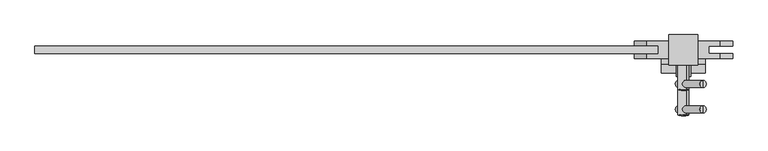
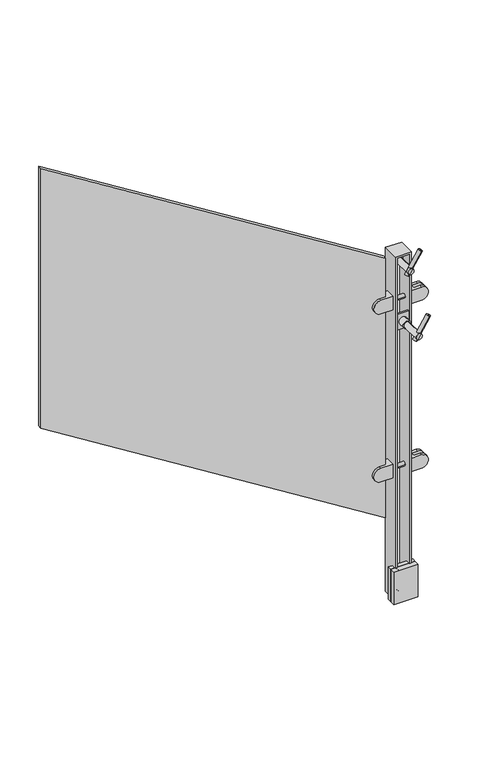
"""IFC4 building model written with IfcOpenShell, lengths in millimetres: proxy geometry, LIVERS_ICN - Glass Panel : LIVERS_ICN - Glass Panel."""

from ifc_helpers import new_model, si_unit, point, frame, origin, place, context, project, spatial, polyline, circle_curve, ellipse_curve, trimmed, outline, extrude, faceted_brep, source, transform, mapped, element, save
from ifc_brep_helpers import plane_surface, cylinder_surface, revolved_surface, advanced_brep


def building_element_proxy_c05a2053(model_context):
    return source(origin(), model_context, "Body", "SolidModel", [
        advanced_brep(
        [(1223.1309171, 60.3249609, 615.1231165), (1216.4009425, 60.3249609, 604.3529057), (1209.6709678, 60.3249609, 593.5826949), (1223.1309171, 38.0999609, 615.1231165), (1209.6709678, 38.0999609, 593.5826949), (1216.4009425, 38.0999609, 604.3529057)],
        [
            (0, 1),
            (1, 2),
            (2, 0, circle_curve(frame((1216.4009425, 60.3249609, 604.3529057), z_axis=(0.0, 1.0, 0.0), x_axis=(-0.5299192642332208, 0.0, -0.8480480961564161)), 12.7)),
            (0, 2, circle_curve(frame((1216.4009425, 60.3249609, 604.3529057), z_axis=(0.0, 1.0, 0.0), x_axis=(-0.5299192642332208, 0.0, -0.8480480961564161)), 12.7)),
            (3, 0),
            (2, 4),
            (4, 3, circle_curve(frame((1216.4009425, 38.0999609, 604.3529057), z_axis=(0.0, 1.0, 0.0), x_axis=(-0.5299192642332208, 0.0, -0.8480480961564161)), 12.7)),
            (3, 4, circle_curve(frame((1216.4009425, 38.0999609, 604.3529057), z_axis=(0.0, 1.0, 0.0), x_axis=(-0.5299192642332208, 0.0, -0.8480480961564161)), 12.7)),
            (5, 3),
            (4, 5),
        ],
        [
            plane_surface(frame((1216.4009425, 60.3249609, 604.3529057), z_axis=(0.0, 1.0, 0.0), x_axis=(-0.5299192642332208, 0.0, -0.8480480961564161))),
            cylinder_surface(frame((1216.4009425, 69.3828283, 604.3529057), z_axis=(0.0, -1.0, 0.0), x_axis=(-0.5299192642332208, 0.0, -0.8480480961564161)), 12.7),
            plane_surface(frame((1216.4009425, 38.0999609, 604.3529057), z_axis=(0.0, -1.0, 0.0), x_axis=(-0.5299192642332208, 0.0, -0.8480480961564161))),
        ],
        [
            (0, [[1, 2, 3]]),
            (0, [[-2, -1, 4]]),
            (1, [[5, -3, 6, 7]]),
            (1, [[-6, -4, -5, 8]]),
            (2, [[9, -7, 10]]),
            (2, [[-10, -8, -9]]),
        ],
    ),
        advanced_brep(
        [(1250.6686127, -25.4004131, 659.1926416), (1250.6686127, -19.0504161, 659.1926416), (1250.6686127, -12.7004191, 659.1926416), (1208.0651874, -25.4004131, 591.0129091), (1208.0651874, -12.7004191, 591.0129091), (1208.0651874, -19.0504161, 591.0129091)],
        [
            (0, 1),
            (1, 2),
            (2, 0, circle_curve(frame((1250.6686127, -19.0504161, 659.1926416), z_axis=(0.5299192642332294, 0.0, 0.8480480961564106), x_axis=(0.0, 1.0, 0.0)), 6.349997)),
            (0, 2, circle_curve(frame((1250.6686127, -19.0504161, 659.1926416), z_axis=(0.5299192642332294, 0.0, 0.8480480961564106), x_axis=(0.0, 1.0, 0.0)), 6.349997)),
            (3, 0),
            (2, 4),
            (4, 3, circle_curve(frame((1208.0651874, -19.0504161, 591.0129091), z_axis=(0.5299192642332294, 0.0, 0.8480480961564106), x_axis=(0.0, 1.0, 0.0)), 6.349997)),
            (3, 4, circle_curve(frame((1208.0651874, -19.0504161, 591.0129091), z_axis=(0.5299192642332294, 0.0, 0.8480480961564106), x_axis=(0.0, 1.0, 0.0)), 6.349997)),
            (5, 3),
            (4, 5),
        ],
        [
            plane_surface(frame((1250.6686127, -19.0504161, 659.1926416), z_axis=(0.5299192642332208, 0.0, 0.8480480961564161), x_axis=(0.0, 1.0, 0.0))),
            cylinder_surface(frame((1258.0085281, -19.0504161, 670.9389617), z_axis=(-0.5299192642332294, 0.0, -0.8480480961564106), x_axis=(0.0, 1.0, 0.0)), 6.349997),
            plane_surface(frame((1208.0651874, -19.0504161, 591.0129091), z_axis=(-0.5299192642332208, 0.0, -0.8480480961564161), x_axis=(0.0, 1.0, 0.0))),
        ],
        [
            (0, [[1, 2, 3]]),
            (0, [[-2, -1, 4]]),
            (1, [[5, -3, 6, 7]]),
            (1, [[-6, -4, -5, 8]]),
            (2, [[9, -7, 10]]),
            (2, [[-10, -8, -9]]),
        ],
    ),
        advanced_brep(
        [(1216.4009425, -30.1375464, 604.3529057), (1221.4484235, -28.5500464, 612.4305638), (1211.3534615, -28.5500464, 596.2752476), (1221.4484235, 38.0999609, 612.4305638), (1216.4009425, 38.0999609, 604.3529057), (1211.3534615, 38.0999609, 596.2752476)],
        [
            (0, 1, circle_curve(frame((1216.4009425, -0.7687964, 604.3529057), z_axis=(-0.8480480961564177, 0.0, 0.529919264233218), x_axis=(0.0, 1.0, 0.0)), 29.36875)),
            (1, 2, circle_curve(frame((1216.4009425, -28.5500464, 604.3529057), z_axis=(0.0, -1.0, 0.0), x_axis=(-0.5299192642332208, 0.0, -0.8480480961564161)), 9.525)),
            (2, 0, circle_curve(frame((1216.4009425, -0.7687964, 604.3529057), z_axis=(-0.8480480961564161, 0.0, 0.5299192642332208), x_axis=(0.0, 1.0, 0.0)), 29.36875)),
            (2, 1, circle_curve(frame((1216.4009425, -28.5500464, 604.3529057), z_axis=(0.0, -1.0, 0.0), x_axis=(-0.5299192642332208, 0.0, -0.8480480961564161)), 9.525)),
            (3, 4),
            (4, 5),
            (5, 3, circle_curve(frame((1216.4009425, 38.0999609, 604.3529057), z_axis=(0.0, 1.0, 0.0), x_axis=(-0.5299192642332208, 0.0, -0.8480480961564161)), 9.525)),
            (3, 5, circle_curve(frame((1216.4009425, 38.0999609, 604.3529057), z_axis=(0.0, 1.0, 0.0), x_axis=(-0.5299192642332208, 0.0, -0.8480480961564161)), 9.525)),
            (1, 3),
            (5, 2),
        ],
        [
            revolved_surface(trimmed(ellipse_curve(frame((1216.4009425, -0.7687964, 604.3529057), z_axis=(-0.8480480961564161, 0.0, 0.5299192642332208), x_axis=(0.0, 1.0, 0.0)), 29.36875, 29.36875), [point((1211.3534615, -28.5500464, 596.2752476))], [point((1216.4009425, -30.1375464, 604.3529057))], True, "CARTESIAN"), (1216.4009425, 30.3031204, 604.3529057), (0.0, -1.0, 0.0)),
            plane_surface(frame((1216.4009425, 38.0999609, 604.3529057), z_axis=(0.0, 1.0, 0.0), x_axis=(-0.5299192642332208, 0.0, -0.8480480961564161))),
            cylinder_surface(frame((1216.4009425, 30.3031204, 604.3529057), z_axis=(0.0, -1.0, 0.0), x_axis=(-0.5299192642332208, 0.0, -0.8480480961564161)), 9.525),
        ],
        [
            (0, [[1, 2, 3]]),
            (0, [[-3, 4, -1]]),
            (1, [[5, 6, 7]]),
            (1, [[-6, -5, 8]]),
            (2, [[9, -7, 10, -2]]),
            (2, [[-10, -8, -9, -4]]),
        ],
    ),
        extrude(outline(polyline([(1235.4509425, 66.6749609), (1235.4509425, 60.3249609), (1197.3509425, 60.3249609), (1197.3509425, 66.6749609), (1235.4509425, 66.6749609)])), frame((0.0, 0.0, 578.9529057), z_axis=(0.0, 0.0, 1.0), x_axis=(1.0, 0.0, 0.0)), (0.0, 0.0, 1.0), 50.8),
        advanced_brep(
        [(1223.1309171, 15.875, 425.5915353), (1216.4009425, 15.875, 414.8213245), (1209.6709678, 15.875, 404.0511137), (1223.1309171, -6.35, 425.5915353), (1209.6709678, -6.35, 404.0511137), (1216.4009425, -6.35, 414.8213245)],
        [
            (0, 1),
            (1, 2),
            (2, 0, circle_curve(frame((1216.4009425, 15.875, 414.8213245), z_axis=(0.0, 1.0, 0.0), x_axis=(-0.5299192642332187, 0.0, -0.8480480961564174)), 12.7)),
            (0, 2, circle_curve(frame((1216.4009425, 15.875, 414.8213245), z_axis=(0.0, 1.0, 0.0), x_axis=(-0.5299192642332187, 0.0, -0.8480480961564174)), 12.7)),
            (3, 0),
            (2, 4),
            (4, 3, circle_curve(frame((1216.4009425, -6.35, 414.8213245), z_axis=(0.0, 1.0, 0.0), x_axis=(-0.5299192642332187, 0.0, -0.8480480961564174)), 12.7)),
            (3, 4, circle_curve(frame((1216.4009425, -6.35, 414.8213245), z_axis=(0.0, 1.0, 0.0), x_axis=(-0.5299192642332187, 0.0, -0.8480480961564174)), 12.7)),
            (5, 3),
            (4, 5),
        ],
        [
            plane_surface(frame((1216.4009425, 15.875, 414.8213245), z_axis=(0.0, 1.0, 0.0), x_axis=(-0.5299192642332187, 0.0, -0.8480480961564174))),
            cylinder_surface(frame((1216.4009425, 24.9328674, 414.8213245), z_axis=(0.0, -1.0, 0.0), x_axis=(-0.5299192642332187, 0.0, -0.8480480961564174)), 12.7),
            plane_surface(frame((1216.4009425, -6.35, 414.8213245), z_axis=(0.0, -1.0, 0.0), x_axis=(-0.5299192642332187, 0.0, -0.8480480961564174))),
        ],
        [
            (0, [[1, 2, 3]]),
            (0, [[-2, -1, 4]]),
            (1, [[5, -3, 6, 7]]),
            (1, [[-6, -4, -5, 8]]),
            (2, [[9, -7, 10]]),
            (2, [[-10, -8, -9]]),
        ],
    ),
        advanced_brep(
        [(1250.6686127, -69.850374, 469.6610605), (1250.6686127, -63.500377, 469.6610605), (1250.6686127, -57.15038, 469.6610605), (1208.0651874, -69.850374, 401.4813279), (1208.0651874, -57.15038, 401.4813279), (1208.0651874, -63.500377, 401.4813279)],
        [
            (0, 1),
            (1, 2),
            (2, 0, circle_curve(frame((1250.6686127, -63.500377, 469.6610605), z_axis=(0.5299192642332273, 0.0, 0.848048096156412), x_axis=(0.0, 1.0, 0.0)), 6.349997)),
            (0, 2, circle_curve(frame((1250.6686127, -63.500377, 469.6610605), z_axis=(0.5299192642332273, 0.0, 0.848048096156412), x_axis=(0.0, 1.0, 0.0)), 6.349997)),
            (3, 0),
            (2, 4),
            (4, 3, circle_curve(frame((1208.0651874, -63.500377, 401.4813279), z_axis=(0.5299192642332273, 0.0, 0.848048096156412), x_axis=(0.0, 1.0, 0.0)), 6.349997)),
            (3, 4, circle_curve(frame((1208.0651874, -63.500377, 401.4813279), z_axis=(0.5299192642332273, 0.0, 0.848048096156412), x_axis=(0.0, 1.0, 0.0)), 6.349997)),
            (5, 3),
            (4, 5),
        ],
        [
            plane_surface(frame((1250.6686127, -63.500377, 469.6610605), z_axis=(0.5299192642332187, 0.0, 0.8480480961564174), x_axis=(0.0, 1.0, 0.0))),
            cylinder_surface(frame((1258.0085281, -63.500377, 481.4073805), z_axis=(-0.5299192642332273, 0.0, -0.848048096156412), x_axis=(0.0, 1.0, 0.0)), 6.349997),
            plane_surface(frame((1208.0651874, -63.500377, 401.4813279), z_axis=(-0.5299192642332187, 0.0, -0.8480480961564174), x_axis=(0.0, 1.0, 0.0))),
        ],
        [
            (0, [[1, 2, 3]]),
            (0, [[-2, -1, 4]]),
            (1, [[5, -3, 6, 7]]),
            (1, [[-6, -4, -5, 8]]),
            (2, [[9, -7, 10]]),
            (2, [[-10, -8, -9]]),
        ],
    ),
        advanced_brep(
        [(1216.4009425, -74.5875073, 414.8213245), (1221.4484235, -73.0000073, 422.8989826), (1211.3534615, -73.0000073, 406.7436664), (1221.4484235, -6.35, 422.8989826), (1216.4009425, -6.35, 414.8213245), (1211.3534615, -6.35, 406.7436664)],
        [
            (0, 1, circle_curve(frame((1216.4009425, -45.2187573, 414.8213245), z_axis=(-0.8480480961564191, 0.0, 0.5299192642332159), x_axis=(0.0, 1.0, 0.0)), 29.36875)),
            (1, 2, circle_curve(frame((1216.4009425, -73.0000073, 414.8213245), z_axis=(0.0, -1.0, 0.0), x_axis=(-0.5299192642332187, 0.0, -0.8480480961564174)), 9.525)),
            (2, 0, circle_curve(frame((1216.4009425, -45.2187573, 414.8213245), z_axis=(-0.8480480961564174, 0.0, 0.5299192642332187), x_axis=(0.0, 1.0, 0.0)), 29.36875)),
            (2, 1, circle_curve(frame((1216.4009425, -73.0000073, 414.8213245), z_axis=(0.0, -1.0, 0.0), x_axis=(-0.5299192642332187, 0.0, -0.8480480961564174)), 9.525)),
            (3, 4),
            (4, 5),
            (5, 3, circle_curve(frame((1216.4009425, -6.35, 414.8213245), z_axis=(0.0, 1.0, 0.0), x_axis=(-0.5299192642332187, 0.0, -0.8480480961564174)), 9.525)),
            (3, 5, circle_curve(frame((1216.4009425, -6.35, 414.8213245), z_axis=(0.0, 1.0, 0.0), x_axis=(-0.5299192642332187, 0.0, -0.8480480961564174)), 9.525)),
            (1, 3),
            (5, 2),
        ],
        [
            revolved_surface(trimmed(ellipse_curve(frame((1216.4009425, -45.2187573, 414.8213245), z_axis=(-0.8480480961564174, 0.0, 0.5299192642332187), x_axis=(0.0, 1.0, 0.0)), 29.36875, 29.36875), [point((1211.3534615, -73.0000073, 406.7436664))], [point((1216.4009425, -74.5875073, 414.8213245))], True, "CARTESIAN"), (1216.4009425, -14.1468405, 414.8213245), (0.0, -1.0, 0.0)),
            plane_surface(frame((1216.4009425, -6.35, 414.8213245), z_axis=(0.0, 1.0, 0.0), x_axis=(-0.5299192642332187, 0.0, -0.8480480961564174))),
            cylinder_surface(frame((1216.4009425, -14.1468405, 414.8213245), z_axis=(0.0, -1.0, 0.0), x_axis=(-0.5299192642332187, 0.0, -0.8480480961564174)), 9.525),
        ],
        [
            (0, [[1, 2, 3]]),
            (0, [[-3, 4, -1]]),
            (1, [[5, 6, 7]]),
            (1, [[-6, -5, 8]]),
            (2, [[9, -7, 10, -2]]),
            (2, [[-10, -8, -9, -4]]),
        ],
    ),
        extrude(outline(polyline([(1235.4509425, 22.225), (1235.4509425, 15.875), (1197.3509425, 15.875), (1197.3509425, 22.225), (1235.4509425, 22.225)])), frame((0.0, 0.0, 389.4213245), z_axis=(0.0, 0.0, 1.0), x_axis=(1.0, 0.0, 0.0)), (0.0, 0.0, 1.0), 50.8),
        advanced_brep(
        [(1191.0009425, 55.5624457, -60.6282297), (1191.0009425, 25.3999457, -60.6282297), (1191.0009425, 25.3999457, -105.0782297), (1191.0009425, 55.5624457, -105.0782297), (1152.7998485, 55.5624457, -105.0782297), (1152.7998485, 55.5624457, -60.6282297), (1152.7998485, 25.3999457, -105.0782297), (1152.7998485, 34.1311957, -105.0782297), (1172.1290232, 34.1311957, -105.0782297), (1172.1290232, 46.8311957, -105.0782297), (1152.7998485, 46.8311957, -105.0782297), (1152.7998485, 25.3999457, -60.6282297), (1152.7998485, 46.8311957, -60.6282297), (1172.1290232, 46.8311957, -60.6282297), (1172.1290232, 34.1311957, -60.6282297), (1152.7998485, 34.1311957, -60.6282297)],
        [
            (0, 1),
            (1, 2),
            (2, 3),
            (3, 0),
            (3, 4),
            (4, 5, circle_curve(frame((1152.7998485, 55.5624457, -82.8532297), z_axis=(0.0, 1.0, 0.0), x_axis=(0.0, 0.0, -1.0)), 22.225)),
            (5, 0),
            (2, 6),
            (6, 7),
            (7, 8),
            (8, 9),
            (9, 10),
            (10, 4),
            (1, 11),
            (11, 6, circle_curve(frame((1152.7998485, 25.3999457, -82.8532297), z_axis=(0.0, -1.0, 0.0), x_axis=(0.0, 0.0, -1.0)), 22.225)),
            (5, 12),
            (12, 13),
            (13, 14),
            (14, 15),
            (15, 11),
            (13, 9),
            (8, 14),
            (12, 10, circle_curve(frame((1152.7998485, 46.8311957, -82.8532297), z_axis=(0.0, -1.0, 0.0), x_axis=(0.0, 0.0, -1.0)), 22.225)),
            (7, 15, circle_curve(frame((1152.7998485, 34.1311957, -82.8532297), z_axis=(0.0, 1.0, 0.0), x_axis=(0.0, 0.0, -1.0)), 22.225)),
        ],
        [
            plane_surface(frame((1191.0009425, 55.5624457, -105.0782297), z_axis=(1.0, 0.0, 0.0), x_axis=(0.0, 0.0, 1.0))),
            plane_surface(frame((1130.4978617, 55.5624457, -60.6282297), z_axis=(0.0, 1.0, 0.0), x_axis=(1.0, 0.0, 0.0))),
            plane_surface(frame((1130.4978617, 55.5624457, -105.0782297), z_axis=(0.0, 0.0, -1.0), x_axis=(1.0, 0.0, 0.0))),
            plane_surface(frame((1130.4978617, 25.3999457, -105.0782297), z_axis=(0.0, -1.0, 0.0), x_axis=(1.0, 0.0, 0.0))),
            plane_surface(frame((1130.4978617, 25.3999457, -60.6282297), z_axis=(0.0, 0.0, 1.0), x_axis=(1.0, 0.0, 0.0))),
            plane_surface(frame((1172.1290232, 46.8311957, -105.0782297), z_axis=(-1.0, 0.0, 0.0), x_axis=(0.0, 0.0, 1.0))),
            plane_surface(frame((1130.4978617, 46.8311957, -60.6282297), z_axis=(0.0, -1.0, 0.0), x_axis=(1.0, 0.0, 0.0))),
            plane_surface(frame((1130.4978617, 34.1311957, -105.0782297), z_axis=(0.0, 1.0, 0.0), x_axis=(1.0, 0.0, 0.0))),
            cylinder_surface(frame((1152.7998485, 55.5624457, -82.8532297), z_axis=(0.0, 1.0, 0.0), x_axis=(0.0, 0.0, -1.0)), 22.225),
        ],
        [
            (0, [[1, 2, 3, 4]]),
            (1, [[-4, 5, 6, 7]]),
            (2, [[-3, 8, 9, 10, 11, 12, 13, -5]]),
            (3, [[-2, 14, 15, -8]]),
            (4, [[-1, -7, 16, 17, 18, 19, 20, -14]]),
            (5, [[21, -11, 22, -18]]),
            (6, [[-21, -17, 23, -12]]),
            (7, [[-22, -10, 24, -19]]),
            (8, [[-6, -13, -23, -16]]),
            (8, [[-9, -15, -20, -24]]),
        ],
    ),
        advanced_brep(
        [(1241.8009425, 55.5624457, -60.6282297), (1241.8009425, 55.5624457, -105.0782297), (1241.8009425, 25.3999457, -105.0782297), (1241.8009425, 25.3999457, -60.6282297), (1280.0020365, 55.5624457, -60.6282297), (1280.0020365, 55.5624457, -105.0782297), (1280.0020365, 46.8311957, -105.0782297), (1260.6728617, 46.8311957, -105.0782297), (1260.6728617, 34.1311957, -105.0782297), (1280.0020365, 34.1311957, -105.0782297), (1280.0020365, 25.3999457, -105.0782297), (1280.0020365, 25.3999457, -60.6282297), (1280.0020365, 34.1311957, -60.6282297), (1260.6728617, 34.1311957, -60.6282297), (1260.6728617, 46.8311957, -60.6282297), (1280.0020365, 46.8311957, -60.6282297)],
        [
            (0, 1),
            (1, 2),
            (2, 3),
            (3, 0),
            (0, 4),
            (4, 5, circle_curve(frame((1280.0020365, 55.5624457, -82.8532297), z_axis=(0.0, 1.0, 0.0), x_axis=(0.0, 0.0, -1.0)), 22.225)),
            (5, 1),
            (5, 6),
            (6, 7),
            (7, 8),
            (8, 9),
            (9, 10),
            (10, 2),
            (10, 11, circle_curve(frame((1280.0020365, 25.3999457, -82.8532297), z_axis=(0.0, -1.0, 0.0), x_axis=(0.0, 0.0, -1.0)), 22.225)),
            (11, 3),
            (11, 12),
            (12, 13),
            (13, 14),
            (14, 15),
            (15, 4),
            (13, 8),
            (7, 14),
            (6, 15, circle_curve(frame((1280.0020365, 46.8311957, -82.8532297), z_axis=(0.0, -1.0, 0.0), x_axis=(0.0, 0.0, -1.0)), 22.225)),
            (12, 9, circle_curve(frame((1280.0020365, 34.1311957, -82.8532297), z_axis=(0.0, 1.0, 0.0), x_axis=(0.0, 0.0, -1.0)), 22.225)),
        ],
        [
            plane_surface(frame((1241.8009425, 55.5624457, -105.0782297), z_axis=(-1.0, 0.0, 0.0), x_axis=(0.0, 0.0, 1.0))),
            plane_surface(frame((1302.3040232, 55.5624457, -60.6282297), z_axis=(0.0, 1.0, 0.0), x_axis=(-1.0, 0.0, 0.0))),
            plane_surface(frame((1302.3040232, 55.5624457, -105.0782297), z_axis=(0.0, 0.0, -1.0), x_axis=(-1.0, 0.0, 0.0))),
            plane_surface(frame((1302.3040232, 25.3999457, -105.0782297), z_axis=(0.0, -1.0, 0.0), x_axis=(-1.0, 0.0, 0.0))),
            plane_surface(frame((1302.3040232, 25.3999457, -60.6282297), z_axis=(0.0, 0.0, 1.0), x_axis=(-1.0, 0.0, 0.0))),
            plane_surface(frame((1260.6728617, 46.8311957, -105.0782297), z_axis=(1.0, 0.0, 0.0), x_axis=(0.0, 0.0, 1.0))),
            plane_surface(frame((1302.3040232, 46.8311957, -60.6282297), z_axis=(0.0, -1.0, 0.0), x_axis=(-1.0, 0.0, 0.0))),
            plane_surface(frame((1302.3040232, 34.1311957, -105.0782297), z_axis=(0.0, 1.0, 0.0), x_axis=(-1.0, 0.0, 0.0))),
            cylinder_surface(frame((1280.0020365, 55.5624457, -82.8532297), z_axis=(0.0, 1.0, 0.0), x_axis=(0.0, 0.0, -1.0)), 22.225),
        ],
        [
            (0, [[1, 2, 3, 4]]),
            (1, [[5, 6, 7, -1]]),
            (2, [[-7, 8, 9, 10, 11, 12, 13, -2]]),
            (3, [[-13, 14, 15, -3]]),
            (4, [[-15, 16, 17, 18, 19, 20, -5, -4]]),
            (5, [[-18, 21, -10, 22]]),
            (6, [[-9, 23, -19, -22]]),
            (7, [[-17, 24, -11, -21]]),
            (8, [[-20, -23, -8, -6]]),
            (8, [[-24, -16, -14, -12]]),
        ],
    ),
        advanced_brep(
        [(1191.0009425, 55.5624457, 498.1717703), (1191.0009425, 25.3999457, 498.1717703), (1191.0009425, 25.3999457, 453.7217703), (1191.0009425, 55.5624457, 453.7217703), (1152.7998485, 55.5624457, 453.7217703), (1152.7998485, 55.5624457, 498.1717703), (1152.7998485, 25.3999457, 453.7217703), (1152.7998485, 34.1311957, 453.7217703), (1172.1290232, 34.1311957, 453.7217703), (1172.1290232, 46.8311957, 453.7217703), (1152.7998485, 46.8311957, 453.7217703), (1152.7998485, 25.3999457, 498.1717703), (1152.7998485, 46.8311957, 498.1717703), (1172.1290232, 46.8311957, 498.1717703), (1172.1290232, 34.1311957, 498.1717703), (1152.7998485, 34.1311957, 498.1717703)],
        [
            (0, 1),
            (1, 2),
            (2, 3),
            (3, 0),
            (3, 4),
            (4, 5, circle_curve(frame((1152.7998485, 55.5624457, 475.9467703), z_axis=(0.0, 1.0, 0.0), x_axis=(0.0, 0.0, -1.0)), 22.225)),
            (5, 0),
            (2, 6),
            (6, 7),
            (7, 8),
            (8, 9),
            (9, 10),
            (10, 4),
            (1, 11),
            (11, 6, circle_curve(frame((1152.7998485, 25.3999457, 475.9467703), z_axis=(0.0, -1.0, 0.0), x_axis=(0.0, 0.0, -1.0)), 22.225)),
            (5, 12),
            (12, 13),
            (13, 14),
            (14, 15),
            (15, 11),
            (13, 9),
            (8, 14),
            (12, 10, circle_curve(frame((1152.7998485, 46.8311957, 475.9467703), z_axis=(0.0, -1.0, 0.0), x_axis=(0.0, 0.0, -1.0)), 22.225)),
            (7, 15, circle_curve(frame((1152.7998485, 34.1311957, 475.9467703), z_axis=(0.0, 1.0, 0.0), x_axis=(0.0, 0.0, -1.0)), 22.225)),
        ],
        [
            plane_surface(frame((1191.0009425, 55.5624457, 453.7217703), z_axis=(1.0, 0.0, 0.0), x_axis=(0.0, 0.0, 1.0))),
            plane_surface(frame((1130.4978617, 55.5624457, 498.1717703), z_axis=(0.0, 1.0, 0.0), x_axis=(1.0, 0.0, 0.0))),
            plane_surface(frame((1130.4978617, 55.5624457, 453.7217703), z_axis=(0.0, 0.0, -1.0), x_axis=(1.0, 0.0, 0.0))),
            plane_surface(frame((1130.4978617, 25.3999457, 453.7217703), z_axis=(0.0, -1.0, 0.0), x_axis=(1.0, 0.0, 0.0))),
            plane_surface(frame((1130.4978617, 25.3999457, 498.1717703), z_axis=(0.0, 0.0, 1.0), x_axis=(1.0, 0.0, 0.0))),
            plane_surface(frame((1172.1290232, 46.8311957, 453.7217703), z_axis=(-1.0, 0.0, 0.0), x_axis=(0.0, 0.0, 1.0))),
            plane_surface(frame((1130.4978617, 46.8311957, 498.1717703), z_axis=(0.0, -1.0, 0.0), x_axis=(1.0, 0.0, 0.0))),
            plane_surface(frame((1130.4978617, 34.1311957, 453.7217703), z_axis=(0.0, 1.0, 0.0), x_axis=(1.0, 0.0, 0.0))),
            cylinder_surface(frame((1152.7998485, 55.5624457, 475.9467703), z_axis=(0.0, 1.0, 0.0), x_axis=(0.0, 0.0, -1.0)), 22.225),
        ],
        [
            (0, [[1, 2, 3, 4]]),
            (1, [[-4, 5, 6, 7]]),
            (2, [[-3, 8, 9, 10, 11, 12, 13, -5]]),
            (3, [[-2, 14, 15, -8]]),
            (4, [[-1, -7, 16, 17, 18, 19, 20, -14]]),
            (5, [[21, -11, 22, -18]]),
            (6, [[-21, -17, 23, -12]]),
            (7, [[-22, -10, 24, -19]]),
            (8, [[-6, -13, -23, -16]]),
            (8, [[-9, -15, -20, -24]]),
        ],
    ),
        advanced_brep(
        [(1241.8009425, 55.5624457, 498.1717703), (1241.8009425, 55.5624457, 453.7217703), (1241.8009425, 25.3999457, 453.7217703), (1241.8009425, 25.3999457, 498.1717703), (1280.0020365, 55.5624457, 498.1717703), (1280.0020365, 55.5624457, 453.7217703), (1280.0020365, 46.8311957, 453.7217703), (1260.6728617, 46.8311957, 453.7217703), (1260.6728617, 34.1311957, 453.7217703), (1280.0020365, 34.1311957, 453.7217703), (1280.0020365, 25.3999457, 453.7217703), (1280.0020365, 25.3999457, 498.1717703), (1280.0020365, 34.1311957, 498.1717703), (1260.6728617, 34.1311957, 498.1717703), (1260.6728617, 46.8311957, 498.1717703), (1280.0020365, 46.8311957, 498.1717703)],
        [
            (0, 1),
            (1, 2),
            (2, 3),
            (3, 0),
            (0, 4),
            (4, 5, circle_curve(frame((1280.0020365, 55.5624457, 475.9467703), z_axis=(0.0, 1.0, 0.0), x_axis=(0.0, 0.0, -1.0)), 22.225)),
            (5, 1),
            (5, 6),
            (6, 7),
            (7, 8),
            (8, 9),
            (9, 10),
            (10, 2),
            (10, 11, circle_curve(frame((1280.0020365, 25.3999457, 475.9467703), z_axis=(0.0, -1.0, 0.0), x_axis=(0.0, 0.0, -1.0)), 22.225)),
            (11, 3),
            (11, 12),
            (12, 13),
            (13, 14),
            (14, 15),
            (15, 4),
            (13, 8),
            (7, 14),
            (6, 15, circle_curve(frame((1280.0020365, 46.8311957, 475.9467703), z_axis=(0.0, -1.0, 0.0), x_axis=(0.0, 0.0, -1.0)), 22.225)),
            (12, 9, circle_curve(frame((1280.0020365, 34.1311957, 475.9467703), z_axis=(0.0, 1.0, 0.0), x_axis=(0.0, 0.0, -1.0)), 22.225)),
        ],
        [
            plane_surface(frame((1241.8009425, 55.5624457, 453.7217703), z_axis=(-1.0, 0.0, 0.0), x_axis=(0.0, 0.0, 1.0))),
            plane_surface(frame((1302.3040232, 55.5624457, 498.1717703), z_axis=(0.0, 1.0, 0.0), x_axis=(-1.0, 0.0, 0.0))),
            plane_surface(frame((1302.3040232, 55.5624457, 453.7217703), z_axis=(0.0, 0.0, -1.0), x_axis=(-1.0, 0.0, 0.0))),
            plane_surface(frame((1302.3040232, 25.3999457, 453.7217703), z_axis=(0.0, -1.0, 0.0), x_axis=(-1.0, 0.0, 0.0))),
            plane_surface(frame((1302.3040232, 25.3999457, 498.1717703), z_axis=(0.0, 0.0, 1.0), x_axis=(-1.0, 0.0, 0.0))),
            plane_surface(frame((1260.6728617, 46.8311957, 453.7217703), z_axis=(1.0, 0.0, 0.0), x_axis=(0.0, 0.0, 1.0))),
            plane_surface(frame((1302.3040232, 46.8311957, 498.1717703), z_axis=(0.0, -1.0, 0.0), x_axis=(-1.0, 0.0, 0.0))),
            plane_surface(frame((1302.3040232, 34.1311957, 453.7217703), z_axis=(0.0, 1.0, 0.0), x_axis=(-1.0, 0.0, 0.0))),
            cylinder_surface(frame((1280.0020365, 55.5624457, 475.9467703), z_axis=(0.0, 1.0, 0.0), x_axis=(0.0, 0.0, -1.0)), 22.225),
        ],
        [
            (0, [[1, 2, 3, 4]]),
            (1, [[5, 6, 7, -1]]),
            (2, [[-7, 8, 9, 10, 11, 12, 13, -2]]),
            (3, [[-13, 14, 15, -3]]),
            (4, [[-15, 16, 17, 18, 19, 20, -5, -4]]),
            (5, [[-18, 21, -10, 22]]),
            (6, [[-9, 23, -19, -22]]),
            (7, [[-17, 24, -11, -21]]),
            (8, [[-20, -23, -8, -6]]),
            (8, [[-24, -16, -14, -12]]),
        ],
    ),
        advanced_brep(
        [(1216.4009425, 28.575, -499.5192631), (1216.4009425, 29.7562407, -499.5192631), (1216.4009425, 29.7562407, -477.294252), (1216.4009425, 28.575, -477.294252), (1216.4009425, 28.575, -488.4067576), (1216.4009425, 32.325, -494.0192631), (1216.4009425, 30.8816229, -488.4067576), (1216.4009425, 32.325, -482.794252), (1216.4009425, 34.8740117, -494.0192631), (1216.4009425, 34.8740117, -482.794252), (1216.4009425, 33.8500285, -496.9672695), (1216.4009425, 33.8500285, -479.8462456), (1216.4009425, 31.8562692, -498.7255454), (1216.4009425, 31.8562692, -478.0879697)],
        [
            (0, 1),
            (1, 2, circle_curve(frame((1216.4009425, 29.7562407, -488.4067576), z_axis=(0.0, -1.0, 0.0), x_axis=(0.0, 0.0, 1.0)), 11.1125056)),
            (2, 3),
            (3, 0, circle_curve(frame((1216.4009425, 28.575, -488.4067576), z_axis=(0.0, 1.0, 0.0), x_axis=(0.0, 0.0, 1.0)), 11.1125056)),
            (2, 1, circle_curve(frame((1216.4009425, 29.7562407, -488.4067576), z_axis=(0.0, -1.0, 0.0), x_axis=(0.0, 0.0, 1.0)), 11.1125056)),
            (0, 3, circle_curve(frame((1216.4009425, 28.575, -488.4067576), z_axis=(0.0, 1.0, 0.0), x_axis=(0.0, 0.0, 1.0)), 11.1125056)),
            (4, 0),
            (3, 4),
            (5, 6),
            (6, 7),
            (7, 5, circle_curve(frame((1216.4009425, 32.325, -488.4067576), z_axis=(0.0, 1.0, 0.0), x_axis=(0.0, 0.0, 1.0)), 5.6125056)),
            (5, 7, circle_curve(frame((1216.4009425, 32.325, -488.4067576), z_axis=(0.0, 1.0, 0.0), x_axis=(0.0, 0.0, 1.0)), 5.6125056)),
            (8, 5),
            (7, 9),
            (9, 8, circle_curve(frame((1216.4009425, 34.8740117, -488.4067576), z_axis=(0.0, 1.0, 0.0), x_axis=(0.0, 0.0, 1.0)), 5.6125056)),
            (8, 9, circle_curve(frame((1216.4009425, 34.8740117, -488.4067576), z_axis=(0.0, 1.0, 0.0), x_axis=(0.0, 0.0, 1.0)), 5.6125056)),
            (10, 8, circle_curve(frame((1216.4009425, 31.75, -494.5859872), z_axis=(1.0, 0.0, 0.0), x_axis=(0.0, -1.0, 0.0)), 3.175)),
            (9, 11, circle_curve(frame((1216.4009425, 31.75, -482.2275279), z_axis=(1.0, 0.0, 0.0), x_axis=(0.0, -1.0, 0.0)), 3.175)),
            (11, 10, circle_curve(frame((1216.4009425, 33.8500285, -488.4067576), z_axis=(0.0, 1.0, 0.0), x_axis=(0.0, 0.0, 1.0)), 8.560512)),
            (10, 11, circle_curve(frame((1216.4009425, 33.8500285, -488.4067576), z_axis=(0.0, 1.0, 0.0), x_axis=(0.0, 0.0, 1.0)), 8.560512)),
            (12, 10),
            (11, 13),
            (13, 12, circle_curve(frame((1216.4009425, 31.8562692, -488.4067576), z_axis=(0.0, 1.0, 0.0), x_axis=(0.0, 0.0, 1.0)), 10.3187879)),
            (12, 13, circle_curve(frame((1216.4009425, 31.8562692, -488.4067576), z_axis=(0.0, 1.0, 0.0), x_axis=(0.0, 0.0, 1.0)), 10.3187879)),
            (1, 12, circle_curve(frame((1216.4009425, 29.7562407, -496.3442631), z_axis=(1.0, 0.0, 0.0), x_axis=(0.0, -1.0, 0.0)), 3.175)),
            (13, 2, circle_curve(frame((1216.4009425, 29.7562407, -480.469252), z_axis=(1.0, 0.0, 0.0), x_axis=(0.0, -1.0, 0.0)), 3.175)),
        ],
        [
            cylinder_surface(frame((1216.4009425, 28.575, -488.4067576), z_axis=(0.0, -1.0, 0.0), x_axis=(0.0, 0.0, 1.0)), 11.1125056),
            plane_surface(frame((1216.4009425, 28.575, -488.4067576), z_axis=(0.0, -1.0, 0.0), x_axis=(0.0, 0.0, 1.0))),
            revolved_surface(polyline([(1216.4009425, 30.8816229, -488.4067576), (1216.4009425, 32.325, -482.794252)]), (1216.4009425, 28.575, -488.4067576), (0.0, -1.0, 0.0)),
            revolved_surface(polyline([(1216.4009425, 32.325, -482.794252), (1216.4009425, 34.8740117, -482.794252)]), (1216.4009425, 28.575, -488.4067576), (0.0, -1.0, 0.0)),
            revolved_surface(trimmed(ellipse_curve(frame((1216.4009425, 31.75, -482.2275279), z_axis=(1.0, 0.0, 0.0), x_axis=(0.0, -1.0, 0.0)), 3.175, 3.175), [point((1216.4009425, 34.8740117, -482.794252))], [point((1216.4009425, 33.8500285, -479.8462456))], True, "CARTESIAN"), (1216.4009425, 28.575, -488.4067576), (0.0, -1.0, 0.0)),
            revolved_surface(polyline([(1216.4009425, 33.8500285, -479.8462456), (1216.4009425, 31.8562692, -478.0879697)]), (1216.4009425, 28.575, -488.4067576), (0.0, -1.0, 0.0)),
            revolved_surface(trimmed(ellipse_curve(frame((1216.4009425, 29.7562407, -480.469252), z_axis=(1.0, 0.0, 0.0), x_axis=(0.0, -1.0, 0.0)), 3.175, 3.175), [point((1216.4009425, 31.8562692, -478.0879697))], [point((1216.4009425, 29.7562407, -477.294252))], True, "CARTESIAN"), (1216.4009425, 28.575, -488.4067576), (0.0, -1.0, 0.0)),
        ],
        [
            (0, [[1, 2, 3, 4]]),
            (0, [[-3, 5, -1, 6]]),
            (1, [[7, -4, 8]]),
            (1, [[-8, -6, -7]]),
            (2, [[9, 10, 11]]),
            (2, [[-10, -9, 12]]),
            (3, [[13, -11, 14, 15]]),
            (3, [[-14, -12, -13, 16]]),
            (4, [[17, -15, 18, 19]]),
            (4, [[-18, -16, -17, 20]]),
            (5, [[21, -19, 22, 23]]),
            (5, [[-22, -20, -21, 24]]),
            (6, [[25, -23, 26, -2]]),
            (6, [[-26, -24, -25, -5]]),
        ],
    ),
        advanced_brep(
        [(1216.4009425, 28.575, -429.6692631), (1216.4009425, 29.7562407, -429.6692631), (1216.4009425, 29.7562407, -407.444252), (1216.4009425, 28.575, -407.444252), (1216.4009425, 28.575, -418.5567576), (1216.4009425, 33.8500285, -427.1172695), (1216.4009425, 34.8740117, -424.1692631), (1216.4009425, 34.8740117, -412.944252), (1216.4009425, 33.8500285, -409.9962456), (1216.4009425, 31.8562692, -428.8755454), (1216.4009425, 31.8562692, -408.2379697), (1216.4009425, 32.325, -424.1692631), (1216.4009425, 30.8816229, -418.5567576), (1216.4009425, 32.325, -412.944252)],
        [
            (0, 1),
            (1, 2, circle_curve(frame((1216.4009425, 29.7562407, -418.5567576), z_axis=(0.0, -1.0, 0.0), x_axis=(0.0, 0.0, 1.0)), 11.1125056)),
            (2, 3),
            (3, 0, circle_curve(frame((1216.4009425, 28.575, -418.5567576), z_axis=(0.0, 1.0, 0.0), x_axis=(0.0, 0.0, 1.0)), 11.1125056)),
            (2, 1, circle_curve(frame((1216.4009425, 29.7562407, -418.5567576), z_axis=(0.0, -1.0, 0.0), x_axis=(0.0, 0.0, 1.0)), 11.1125056)),
            (0, 3, circle_curve(frame((1216.4009425, 28.575, -418.5567576), z_axis=(0.0, 1.0, 0.0), x_axis=(0.0, 0.0, 1.0)), 11.1125056)),
            (4, 0),
            (3, 4),
            (5, 6, circle_curve(frame((1216.4009425, 31.75, -424.7359872), z_axis=(1.0, 0.0, 0.0), x_axis=(0.0, -1.0, 0.0)), 3.175)),
            (6, 7, circle_curve(frame((1216.4009425, 34.8740117, -418.5567576), z_axis=(0.0, -1.0, 0.0), x_axis=(0.0, 0.0, 1.0)), 5.6125056)),
            (7, 8, circle_curve(frame((1216.4009425, 31.75, -412.3775279), z_axis=(1.0, 0.0, 0.0), x_axis=(0.0, -1.0, 0.0)), 3.175)),
            (8, 5, circle_curve(frame((1216.4009425, 33.8500285, -418.5567576), z_axis=(0.0, 1.0, 0.0), x_axis=(0.0, 0.0, 1.0)), 8.560512)),
            (7, 6, circle_curve(frame((1216.4009425, 34.8740117, -418.5567576), z_axis=(0.0, -1.0, 0.0), x_axis=(0.0, 0.0, 1.0)), 5.6125056)),
            (5, 8, circle_curve(frame((1216.4009425, 33.8500285, -418.5567576), z_axis=(0.0, 1.0, 0.0), x_axis=(0.0, 0.0, 1.0)), 8.560512)),
            (9, 5),
            (8, 10),
            (10, 9, circle_curve(frame((1216.4009425, 31.8562692, -418.5567576), z_axis=(0.0, 1.0, 0.0), x_axis=(0.0, 0.0, 1.0)), 10.3187879)),
            (9, 10, circle_curve(frame((1216.4009425, 31.8562692, -418.5567576), z_axis=(0.0, 1.0, 0.0), x_axis=(0.0, 0.0, 1.0)), 10.3187879)),
            (1, 9, circle_curve(frame((1216.4009425, 29.7562407, -426.4942631), z_axis=(1.0, 0.0, 0.0), x_axis=(0.0, -1.0, 0.0)), 3.175)),
            (10, 2, circle_curve(frame((1216.4009425, 29.7562407, -410.619252), z_axis=(1.0, 0.0, 0.0), x_axis=(0.0, -1.0, 0.0)), 3.175)),
            (11, 12),
            (12, 13),
            (13, 11, circle_curve(frame((1216.4009425, 32.325, -418.5567576), z_axis=(0.0, 1.0, 0.0), x_axis=(0.0, 0.0, 1.0)), 5.6125056)),
            (11, 13, circle_curve(frame((1216.4009425, 32.325, -418.5567576), z_axis=(0.0, 1.0, 0.0), x_axis=(0.0, 0.0, 1.0)), 5.6125056)),
            (6, 11),
            (13, 7),
        ],
        [
            cylinder_surface(frame((1216.4009425, 28.575, -418.5567576), z_axis=(0.0, -1.0, 0.0), x_axis=(0.0, 0.0, 1.0)), 11.1125056),
            plane_surface(frame((1216.4009425, 28.575, -418.5567576), z_axis=(0.0, -1.0, 0.0), x_axis=(0.0, 0.0, 1.0))),
            revolved_surface(trimmed(ellipse_curve(frame((1216.4009425, 31.75, -412.3775279), z_axis=(1.0, 0.0, 0.0), x_axis=(0.0, -1.0, 0.0)), 3.175, 3.175), [point((1216.4009425, 34.8740117, -412.944252))], [point((1216.4009425, 33.8500285, -409.9962456))], True, "CARTESIAN"), (1216.4009425, 28.575, -418.5567576), (0.0, -1.0, 0.0)),
            revolved_surface(polyline([(1216.4009425, 33.8500285, -409.9962456), (1216.4009425, 31.8562692, -408.2379697)]), (1216.4009425, 28.575, -418.5567576), (0.0, -1.0, 0.0)),
            revolved_surface(trimmed(ellipse_curve(frame((1216.4009425, 29.7562407, -410.619252), z_axis=(1.0, 0.0, 0.0), x_axis=(0.0, -1.0, 0.0)), 3.175, 3.175), [point((1216.4009425, 31.8562692, -408.2379697))], [point((1216.4009425, 29.7562407, -407.444252))], True, "CARTESIAN"), (1216.4009425, 28.575, -418.5567576), (0.0, -1.0, 0.0)),
            revolved_surface(polyline([(1216.4009425, 30.8816229, -418.5567576), (1216.4009425, 32.325, -412.944252)]), (1216.4009425, 28.575, -418.5567576), (0.0, -1.0, 0.0)),
            revolved_surface(polyline([(1216.4009425, 32.325, -412.944252), (1216.4009425, 34.8740117, -412.944252)]), (1216.4009425, 28.575, -418.5567576), (0.0, -1.0, 0.0)),
        ],
        [
            (0, [[1, 2, 3, 4]]),
            (0, [[-3, 5, -1, 6]]),
            (1, [[7, -4, 8]]),
            (1, [[-8, -6, -7]]),
            (2, [[9, 10, 11, 12]]),
            (2, [[-11, 13, -9, 14]]),
            (3, [[15, -12, 16, 17]]),
            (3, [[-16, -14, -15, 18]]),
            (4, [[19, -17, 20, -2]]),
            (4, [[-20, -18, -19, -5]]),
            (5, [[21, 22, 23]]),
            (5, [[-22, -21, 24]]),
            (6, [[25, -23, 26, -10]]),
            (6, [[-26, -24, -25, -13]]),
        ],
    ),
        faceted_brep([(1241.8009425, 14.2874305, 636.1029057), (1241.8009425, 14.2874305, -507.4567576), (1241.8009425, 15.875, -507.4567576), (1241.8009425, 15.875, -399.5067576), (1241.8009425, 28.575, -399.5067576), (1241.8009425, 28.575, -507.4567576), (1241.8009425, 66.6749609, -507.4567576), (1241.8009425, 66.6749609, 636.1029057), (1235.4509425, 66.6749609, -507.4567576), (1235.4509425, 28.575, -507.4567576), (1235.4509425, 28.575, -399.5067576), (1235.4509425, 15.875, -399.5067576), (1235.4509425, 15.875, -507.4567576), (1235.4509425, 14.2874305, -507.4567576), (1235.4509425, 14.2874305, 629.7529057), (1235.4509425, 66.6749609, 629.7529057), (1178.3009425, 28.575, -507.4567576), (1191.0009425, 28.575, -507.4567576), (1191.0009425, 66.6749609, -507.4567576), (1197.3509425, 66.6749609, -507.4567576), (1197.3509425, 28.575, -507.4567576), (1254.5009425, 28.575, -507.4567576), (1254.5009425, 15.875, -507.4567576), (1197.3509425, 15.875, -507.4567576), (1197.3509425, 14.2874305, -507.4567576), (1191.0009425, 14.2874305, -507.4567576), (1191.0009425, 15.875, -507.4567576), (1178.3009425, 15.875, -507.4567576), (1191.0009425, 14.2874305, 636.1029057), (1197.3509425, 14.2874305, 629.7529057), (1191.0009425, 66.6749609, 636.1029057), (1197.3509425, 66.6749609, 629.7529057), (1197.3509425, 15.875, -399.5067576), (1197.3509425, 28.575, -399.5067576), (1191.0009425, 28.575, -399.5067576), (1191.0009425, 15.875, -399.5067576), (1254.5009425, 28.575, -399.5067576), (1178.3009425, 28.575, -399.5067576), (1178.3009425, 15.875, -399.5067576), (1254.5009425, 15.875, -399.5067576)], [[[0, 1, 2, 3, 4, 5, 6, 7]], [[8, 9, 10, 11, 12, 13, 14, 15]], [[16, 17, 18, 19, 20, 9, 8, 6, 5, 21, 22, 2, 1, 13, 12, 23, 24, 25, 26, 27]], [[1, 0, 28, 25, 24, 29, 14, 13]], [[7, 30, 28, 0]], [[8, 15, 31, 19, 18, 30, 7, 6]], [[24, 23, 32, 33, 20, 19, 31, 29]], [[14, 29, 31, 15]], [[30, 18, 17, 34, 35, 26, 25, 28]], [[20, 33, 10, 9]], [[21, 5, 4, 36]], [[37, 34, 17, 16]], [[12, 11, 32, 23]], [[27, 26, 35, 38]], [[39, 3, 2, 22]], [[36, 39, 22, 21]], [[33, 32, 11, 10]], [[36, 4, 3, 39]], [[38, 35, 34, 37]], [[16, 27, 38, 37]]]),
        extrude(outline(polyline([(1254.5009425, 15.875), (1254.5009425, 0.0), (1178.3009425, 0.0), (1178.3009425, 15.875), (1254.5009425, 15.875)])), frame((0.0, 0.0, -507.4567576), z_axis=(0.0, 0.0, 1.0), x_axis=(1.0, 0.0, 0.0)), (0.0, 0.0, 1.0), 107.95),
        advanced_brep(
        [(1197.3509425, 41.2749421, -82.8532241), (1197.3509425, 47.5989918, -82.8532241), (1197.3509425, 34.9508924, -82.8532241), (1235.4649287, 47.5989918, -82.8532241), (1235.4649287, 41.2749421, -82.8532241), (1235.4649287, 34.9508924, -82.8532241)],
        [
            (0, 1),
            (1, 2, circle_curve(frame((1197.3509425, 41.2749421, -82.8532241), z_axis=(-1.0, 0.0, 0.0), x_axis=(0.0, -1.0, 0.0)), 6.3240497)),
            (2, 0),
            (2, 1, circle_curve(frame((1197.3509425, 41.2749421, -82.8532241), z_axis=(-1.0, 0.0, 0.0), x_axis=(0.0, -1.0, 0.0)), 6.3240497)),
            (3, 4),
            (4, 5),
            (5, 3, circle_curve(frame((1235.4649287, 41.2749421, -82.8532241), z_axis=(1.0, 0.0, 0.0), x_axis=(0.0, -1.0, 0.0)), 6.3240497)),
            (3, 5, circle_curve(frame((1235.4649287, 41.2749421, -82.8532241), z_axis=(1.0, 0.0, 0.0), x_axis=(0.0, -1.0, 0.0)), 6.3240497)),
            (1, 3),
            (5, 2),
        ],
        [
            plane_surface(frame((1197.3509425, 41.2749421, -82.8532241), z_axis=(-1.0, 0.0, 0.0), x_axis=(0.0, -1.0, 0.0))),
            plane_surface(frame((1235.4649287, 41.2749421, -82.8532241), z_axis=(1.0, 0.0, 0.0), x_axis=(0.0, -1.0, 0.0))),
            cylinder_surface(frame((1197.3509425, 41.2749421, -82.8532241), z_axis=(-1.0, 0.0, 0.0), x_axis=(0.0, -1.0, 0.0)), 6.3240497),
        ],
        [
            (0, [[1, 2, 3]]),
            (0, [[-3, 4, -1]]),
            (1, [[5, 6, 7]]),
            (1, [[-6, -5, 8]]),
            (2, [[9, -7, 10, -2]]),
            (2, [[-10, -8, -9, -4]]),
        ],
    ),
        advanced_brep(
        [(1197.3509425, 41.2749421, 475.9467759), (1197.3509425, 47.5989918, 475.9467759), (1197.3509425, 34.9508924, 475.9467759), (1235.4649287, 47.5989918, 475.9467759), (1235.4649287, 41.2749421, 475.9467759), (1235.4649287, 34.9508924, 475.9467759)],
        [
            (0, 1),
            (1, 2, circle_curve(frame((1197.3509425, 41.2749421, 475.9467759), z_axis=(-1.0, 0.0, 0.0), x_axis=(0.0, -1.0, 0.0)), 6.3240497)),
            (2, 0),
            (2, 1, circle_curve(frame((1197.3509425, 41.2749421, 475.9467759), z_axis=(-1.0, 0.0, 0.0), x_axis=(0.0, -1.0, 0.0)), 6.3240497)),
            (3, 4),
            (4, 5),
            (5, 3, circle_curve(frame((1235.4649287, 41.2749421, 475.9467759), z_axis=(1.0, 0.0, 0.0), x_axis=(0.0, -1.0, 0.0)), 6.3240497)),
            (3, 5, circle_curve(frame((1235.4649287, 41.2749421, 475.9467759), z_axis=(1.0, 0.0, 0.0), x_axis=(0.0, -1.0, 0.0)), 6.3240497)),
            (1, 3),
            (5, 2),
        ],
        [
            plane_surface(frame((1197.3509425, 41.2749421, 475.9467759), z_axis=(-1.0, 0.0, 0.0), x_axis=(0.0, -1.0, 0.0))),
            plane_surface(frame((1235.4649287, 41.2749421, 475.9467759), z_axis=(1.0, 0.0, 0.0), x_axis=(0.0, -1.0, 0.0))),
            cylinder_surface(frame((1197.3509425, 41.2749421, 475.9467759), z_axis=(-1.0, 0.0, 0.0), x_axis=(0.0, -1.0, 0.0)), 6.3240497),
        ],
        [
            (0, [[1, 2, 3]]),
            (0, [[-3, 4, -1]]),
            (1, [[5, 6, 7]]),
            (1, [[-6, -5, 8]]),
            (2, [[9, -7, 10, -2]]),
            (2, [[-10, -8, -9, -4]]),
        ],
    ),
        extrude(outline(polyline([(-236.3308734, 1172.1290232), (627.2691266, 1172.1290232), (1304.4512839, 86.1378366), (440.8512839, 86.1378366), (-236.3308734, 1172.1290232)])), frame((0.0, 34.1309994, 0.0), z_axis=(0.0, 1.0, 0.0), x_axis=(0.0, 0.0, 1.0)), (0.0, 0.0, 1.0), 12.7001962),
    ])


if __name__ == "__main__":
    model = new_model("IFC4")
    model_context = context("Model", 3, world=origin())
    ifc_project = project(units=[si_unit("LENGTHUNIT", "METRE", prefix="MILLI")], contexts=[model_context])
    site = spatial("IfcSite", under=ifc_project)
    building = spatial("IfcBuilding", under=site)
    placement = place(None, origin())
    building_element_proxy_shape = building_element_proxy_c05a2053(model_context)
    element("IfcBuildingElementProxy", 1, Name="LIVERS_ICN - Glass Panel : LIVERS_ICN - Glass Panel", ObjectType="LIVERS_ICN - Glass Panel : LIVERS_ICN - Glass Panel", at=placement, inside=building, context=model_context, shape_type="MappedRepresentation", body=[
        mapped(building_element_proxy_shape, transform((0.0, 0.0, 0.0), x_axis=(1.0, 0.0, 0.0), y_axis=(0.0, 1.0, 0.0), z_axis=(0.0, 0.0, 1.0))),
    ])
    save(model, "model.ifc")
